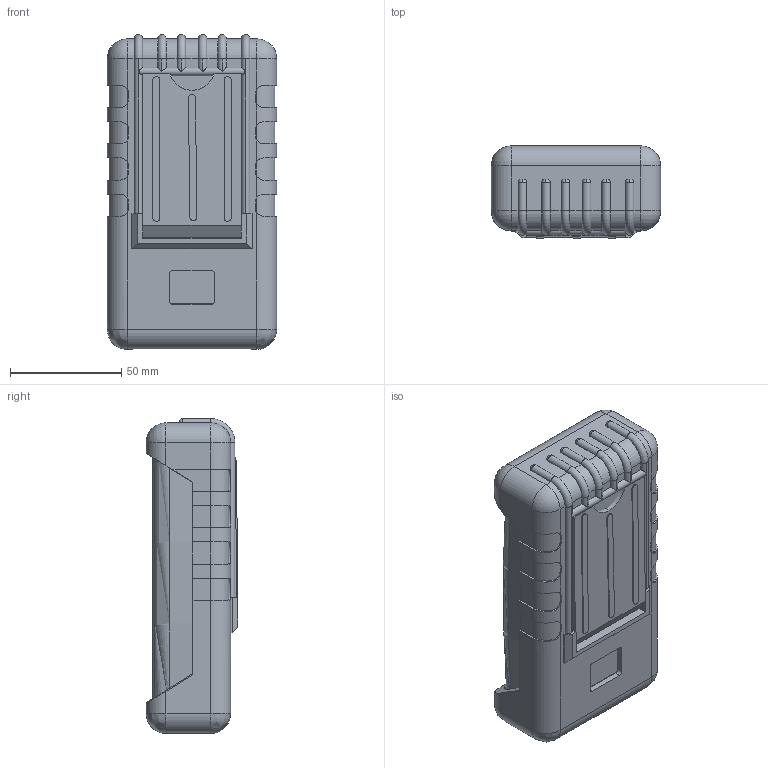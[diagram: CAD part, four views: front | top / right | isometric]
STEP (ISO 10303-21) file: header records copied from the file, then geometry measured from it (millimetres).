
FILE_DESCRIPTION (( 'STEP AP214' ), '1' );
FILE_NAME ('55-32-2A-R-BO.STEP', '2020-10-02T21:32:50', ( 'Rudy' ), ( '' ), 'SwSTEP 2.0', 'SolidWorks 2014', '' );
FILE_SCHEMA (( 'AUTOMOTIVE_DESIGN' ));
Length unit declared in the file: millimetre
Products named in the file (9): 55 RBD Stand; 55 RBD; 55 PCB 2AA-9V ; 55 9V Door; 55 Panel Deep; 55 Top Deep; 55 Bottom 2A; 55-32-2A-R-BO; 55 RBD Assy
Assembly tree (8 placements, depth 3):
  55-32-2A-R-BO
    55 Bottom 2A
    55 Top Deep
    55 Panel Deep
    55 9V Door
    55 PCB 2AA-9V 
    55 RBD Assy
      55 RBD
      55 RBD Stand
Bounding box: 76.2 x 41.38 x 141.6 mm (x, y, z)
Volume: 142974.2 mm3; surface area: 123930.4 mm2
Topology: 15 solids, 15 shells, 965 faces, 2578 edges, 1646 vertices
Faces by surface type: plane 481, cylinder 300, bspline 81, torus 71, cone 28, sphere 4
Entity records: 44416 total; most frequent: CARTESIAN_POINT 20385, ORIENTED_EDGE 5140, DIRECTION 4715, EDGE_CURVE 2570, VERTEX_POINT 1646, AXIS2_PLACEMENT_3D 1632, VECTOR 1451, LINE 1451
